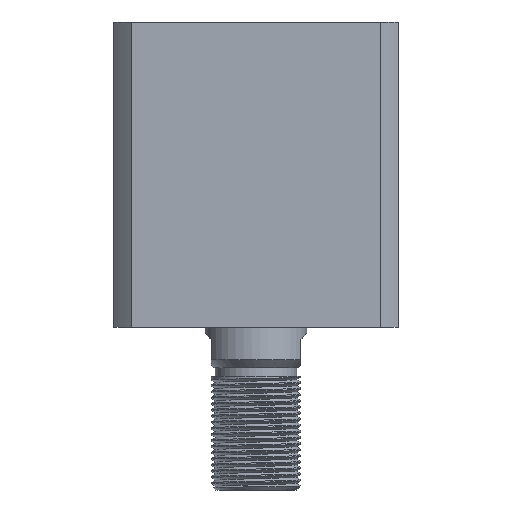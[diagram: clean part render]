
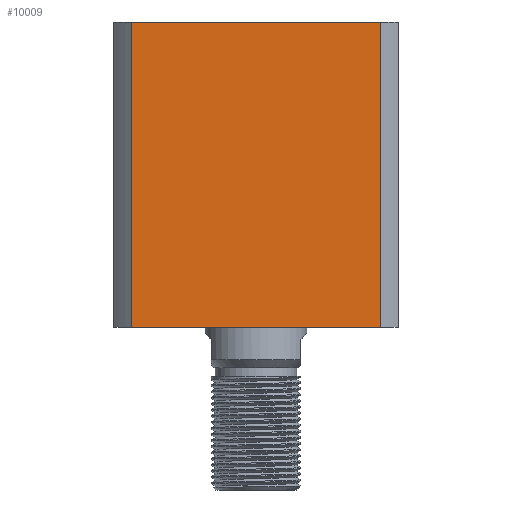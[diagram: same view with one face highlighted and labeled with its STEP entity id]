
A CAD part, left-side view. The second image highlights one B-rep face of the part: STEP entity #10009.
In plain terms, the highlighted planar face has unit normal (-1, 0, 0) as drawn and (0, 1, 0) by its records, which use the part's own axes.
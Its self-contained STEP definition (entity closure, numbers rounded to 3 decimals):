
#411 = VECTOR ( 'NONE', #4556, 1000. ) ;
#672 = FACE_OUTER_BOUND ( 'NONE', #6749, .T. ) ;
#1229 = LINE ( 'NONE', #1497, #3719 ) ;
#1497 = CARTESIAN_POINT ( 'NONE',  ( -35., 35., 75. ) ) ;
#1641 = EDGE_CURVE ( 'NONE', #10622, #9553, #3153, .T. ) ;
#2298 = VERTEX_POINT ( 'NONE', #9543 ) ;
#2327 = CARTESIAN_POINT ( 'NONE',  ( -30.615, 35., 0. ) ) ;
#2555 = LINE ( 'NONE', #2752, #411 ) ;
#2752 = CARTESIAN_POINT ( 'NONE',  ( 30.615, 35., 300. ) ) ;
#3059 = ORIENTED_EDGE ( 'NONE', *, *, #7147, .F. ) ;
#3145 = EDGE_CURVE ( 'NONE', #11724, #10622, #1229, .T. ) ;
#3153 = LINE ( 'NONE', #6439, #8865 ) ;
#3669 = ORIENTED_EDGE ( 'NONE', *, *, #1641, .F. ) ;
#3719 = VECTOR ( 'NONE', #10002, 1000. ) ;
#4076 = DIRECTION ( 'NONE',  ( 0., -1., 0. ) ) ;
#4556 = DIRECTION ( 'NONE',  ( 0., 0., 1. ) ) ;
#4750 = CARTESIAN_POINT ( 'NONE',  ( 30.615, 35., 75. ) ) ;
#5426 = LINE ( 'NONE', #6965, #7929 ) ;
#6439 = CARTESIAN_POINT ( 'NONE',  ( -30.615, 35., 300. ) ) ;
#6749 = EDGE_LOOP ( 'NONE', ( #3669, #13507, #3059, #7000 ) ) ;
#6965 = CARTESIAN_POINT ( 'NONE',  ( -35., 35., 0. ) ) ;
#7000 = ORIENTED_EDGE ( 'NONE', *, *, #12438, .T. ) ;
#7147 = EDGE_CURVE ( 'NONE', #2298, #11724, #2555, .T. ) ;
#7227 = CARTESIAN_POINT ( 'NONE',  ( -35., 35., 75. ) ) ;
#7929 = VECTOR ( 'NONE', #9077, 1000. ) ;
#8865 = VECTOR ( 'NONE', #10904, 1000. ) ;
#9077 = DIRECTION ( 'NONE',  ( -1., 0., 0. ) ) ;
#9543 = CARTESIAN_POINT ( 'NONE',  ( 30.615, 35., 0. ) ) ;
#9553 = VERTEX_POINT ( 'NONE', #2327 ) ;
#10002 = DIRECTION ( 'NONE',  ( -1., 0., 0. ) ) ;
#10009 = ADVANCED_FACE ( 'NONE', ( #672 ), #10365, .F. ) ;
#10365 = PLANE ( 'NONE',  #11346 ) ;
#10622 = VERTEX_POINT ( 'NONE', #10834 ) ;
#10834 = CARTESIAN_POINT ( 'NONE',  ( -30.615, 35., 75. ) ) ;
#10904 = DIRECTION ( 'NONE',  ( 0., 0., -1. ) ) ;
#11346 = AXIS2_PLACEMENT_3D ( 'NONE', #7227, #4076, #11408 ) ;
#11408 = DIRECTION ( 'NONE',  ( 0., 0., -1. ) ) ;
#11724 = VERTEX_POINT ( 'NONE', #4750 ) ;
#12438 = EDGE_CURVE ( 'NONE', #2298, #9553, #5426, .T. ) ;
#13507 = ORIENTED_EDGE ( 'NONE', *, *, #3145, .F. ) ;
